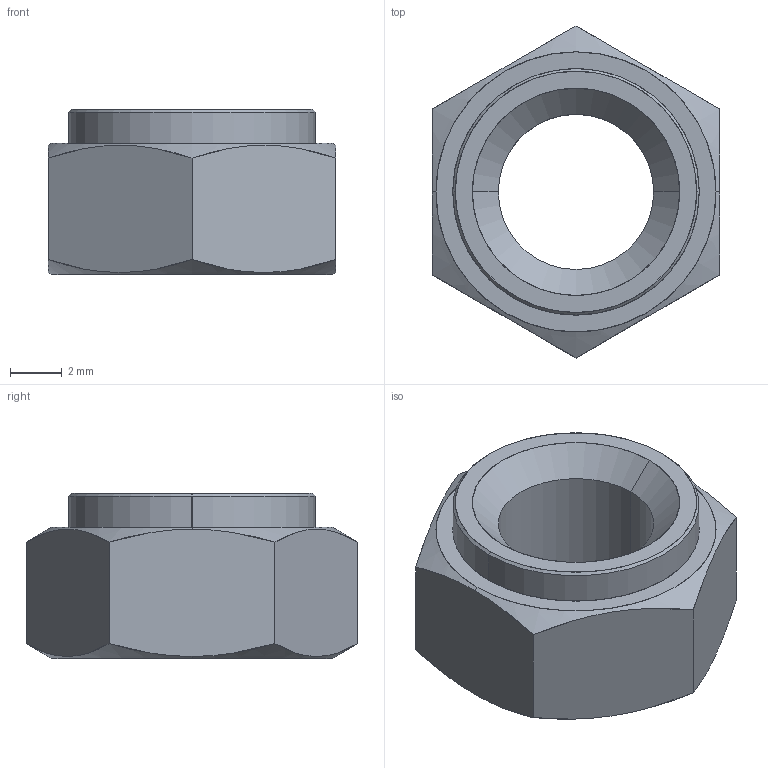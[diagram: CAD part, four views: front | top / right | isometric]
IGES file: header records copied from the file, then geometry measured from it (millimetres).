
Start section: SolidWorks IGES file using analytic representation for surfaces
Global section: file name: C:\Users\liam_\OneDrive\Desktop\Work\Mat Davis Pending 20181125\automotion\P SERIES\P0827.ZP_v2\P0827.ZP_v2_20181231_IGES\P0827.060-22G-ZP.igs; native system: SolidWorks 2017; preprocessor: SolidWorks 2017; author: liam_; date: 181231.110700; units: millimetre
Bounding box: 11.1 x 12.82 x 6.38 mm (x, y, z)
Surface area: 475.3 mm2 (no closed solid volume)
Topology: 0 solids, 0 shells, 23 faces, 400 edges, 400 vertices
Faces by surface type: revolution 14, bspline 9
